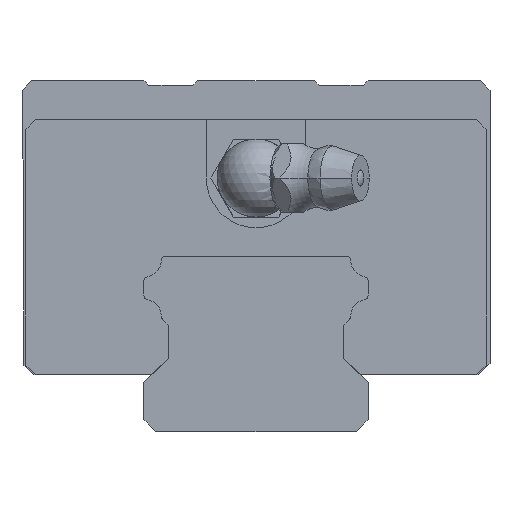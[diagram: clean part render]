
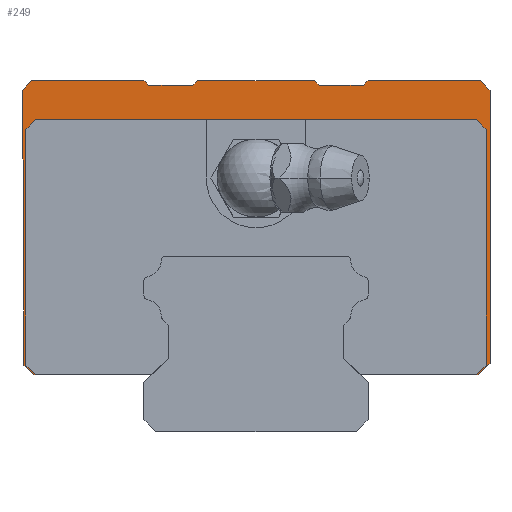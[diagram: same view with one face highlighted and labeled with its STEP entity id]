
A CAD part, front view. The second image highlights one B-rep face of the part: STEP entity #249.
In plain terms, the highlighted planar face has unit normal (0, -1, 0).
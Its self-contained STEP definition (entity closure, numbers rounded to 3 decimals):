
#249=ADVANCED_FACE('',(#556),#557,.F.);
#556=FACE_OUTER_BOUND('',#1016,.T.);
#557=PLANE('',#1017);
#1016=EDGE_LOOP('',(#2016,#2017,#2018,#2019,#2020,#2021,#2022,#2023,#2024,#2025,#2026,#2027,#2028,#2029,#2030,#2031,#2032,#2033,#2034,#2035,#2036,#2037,#2038,#2039,#2040,#2041));
#1017=AXIS2_PLACEMENT_3D('',#2042,#2043,#2044);
#2016=ORIENTED_EDGE('',*,*,#3509,.F.);
#2017=ORIENTED_EDGE('',*,*,#3510,.F.);
#2018=ORIENTED_EDGE('',*,*,#3511,.F.);
#2019=ORIENTED_EDGE('',*,*,#3512,.F.);
#2020=ORIENTED_EDGE('',*,*,#3513,.F.);
#2021=ORIENTED_EDGE('',*,*,#3514,.F.);
#2022=ORIENTED_EDGE('',*,*,#3515,.F.);
#2023=ORIENTED_EDGE('',*,*,#3516,.T.);
#2024=ORIENTED_EDGE('',*,*,#3517,.T.);
#2025=ORIENTED_EDGE('',*,*,#3518,.T.);
#2026=ORIENTED_EDGE('',*,*,#3519,.T.);
#2027=ORIENTED_EDGE('',*,*,#3520,.T.);
#2028=ORIENTED_EDGE('',*,*,#3521,.T.);
#2029=ORIENTED_EDGE('',*,*,#3522,.T.);
#2030=ORIENTED_EDGE('',*,*,#3523,.T.);
#2031=ORIENTED_EDGE('',*,*,#3524,.T.);
#2032=ORIENTED_EDGE('',*,*,#3525,.T.);
#2033=ORIENTED_EDGE('',*,*,#3526,.T.);
#2034=ORIENTED_EDGE('',*,*,#3527,.T.);
#2035=ORIENTED_EDGE('',*,*,#3528,.T.);
#2036=ORIENTED_EDGE('',*,*,#3529,.T.);
#2037=ORIENTED_EDGE('',*,*,#3530,.T.);
#2038=ORIENTED_EDGE('',*,*,#3531,.T.);
#2039=ORIENTED_EDGE('',*,*,#3532,.T.);
#2040=ORIENTED_EDGE('',*,*,#3533,.T.);
#2041=ORIENTED_EDGE('',*,*,#3534,.T.);
#2042=CARTESIAN_POINT('',(24.0,-8.5,36.0));
#2043=DIRECTION('',(0.,1.0,0.));
#2044=DIRECTION('',(1.0,0.,0.));
#3509=EDGE_CURVE('',#4561,#4562,#4563,.T.);
#3510=EDGE_CURVE('',#4564,#4561,#4565,.T.);
#3511=EDGE_CURVE('',#4566,#4564,#4567,.T.);
#3512=EDGE_CURVE('',#4568,#4566,#4569,.T.);
#3513=EDGE_CURVE('',#4570,#4568,#4571,.T.);
#3514=EDGE_CURVE('',#4572,#4570,#4573,.T.);
#3515=EDGE_CURVE('',#4574,#4572,#4575,.T.);
#3516=EDGE_CURVE('',#4574,#4576,#4577,.T.);
#3517=EDGE_CURVE('',#4576,#4578,#4579,.T.);
#3518=EDGE_CURVE('',#4578,#4580,#4581,.T.);
#3519=EDGE_CURVE('',#4580,#4582,#4583,.T.);
#3520=EDGE_CURVE('',#4582,#4584,#4585,.T.);
#3521=EDGE_CURVE('',#4584,#4586,#4587,.T.);
#3522=EDGE_CURVE('',#4586,#4588,#4589,.T.);
#3523=EDGE_CURVE('',#4588,#4590,#4591,.T.);
#3524=EDGE_CURVE('',#4590,#4592,#4593,.T.);
#3525=EDGE_CURVE('',#4592,#4594,#4595,.T.);
#3526=EDGE_CURVE('',#4594,#4596,#4597,.T.);
#3527=EDGE_CURVE('',#4596,#4598,#4599,.T.);
#3528=EDGE_CURVE('',#4598,#4600,#4601,.T.);
#3529=EDGE_CURVE('',#4600,#4602,#4603,.T.);
#3530=EDGE_CURVE('',#4602,#4604,#4605,.T.);
#3531=EDGE_CURVE('',#4604,#4606,#4607,.T.);
#3532=EDGE_CURVE('',#4606,#4608,#4609,.T.);
#3533=EDGE_CURVE('',#4608,#4610,#4611,.T.);
#3534=EDGE_CURVE('',#4610,#4562,#4612,.T.);
#4561=VERTEX_POINT('',#5991);
#4562=VERTEX_POINT('',#5992);
#4563=LINE('',#5993,#5994);
#4564=VERTEX_POINT('',#5995);
#4565=LINE('',#5996,#5997);
#4566=VERTEX_POINT('',#5998);
#4567=LINE('',#5999,#6000);
#4568=VERTEX_POINT('',#6001);
#4569=LINE('',#6002,#6003);
#4570=VERTEX_POINT('',#6004);
#4571=LINE('',#6005,#6006);
#4572=VERTEX_POINT('',#6007);
#4573=LINE('',#6008,#6009);
#4574=VERTEX_POINT('',#6010);
#4575=LINE('',#6011,#6012);
#4576=VERTEX_POINT('',#6013);
#4577=LINE('',#6014,#6015);
#4578=VERTEX_POINT('',#6016);
#4579=LINE('',#6017,#6018);
#4580=VERTEX_POINT('',#6019);
#4581=LINE('',#6020,#6021);
#4582=VERTEX_POINT('',#6022);
#4583=LINE('',#6023,#6024);
#4584=VERTEX_POINT('',#6025);
#4585=LINE('',#6026,#6027);
#4586=VERTEX_POINT('',#6028);
#4587=LINE('',#6029,#6030);
#4588=VERTEX_POINT('',#6031);
#4589=LINE('',#6032,#6033);
#4590=VERTEX_POINT('',#6034);
#4591=LINE('',#6035,#6036);
#4592=VERTEX_POINT('',#6037);
#4593=LINE('',#6038,#6039);
#4594=VERTEX_POINT('',#6040);
#4595=LINE('',#6041,#6042);
#4596=VERTEX_POINT('',#6043);
#4597=LINE('',#6044,#6045);
#4598=VERTEX_POINT('',#6046);
#4599=LINE('',#6047,#6048);
#4600=VERTEX_POINT('',#6049);
#4601=LINE('',#6050,#6051);
#4602=VERTEX_POINT('',#6052);
#4603=LINE('',#6053,#6054);
#4604=VERTEX_POINT('',#6055);
#4605=LINE('',#6056,#6057);
#4606=VERTEX_POINT('',#6058);
#4607=LINE('',#6059,#6060);
#4608=VERTEX_POINT('',#6061);
#4609=LINE('',#6062,#6063);
#4610=VERTEX_POINT('',#6064);
#4611=LINE('',#6065,#6066);
#4612=LINE('',#6067,#6068);
#5991=CARTESIAN_POINT('',(-23.6,-8.5,6.8));
#5992=CARTESIAN_POINT('',(-22.6,-8.5,5.8));
#5993=CARTESIAN_POINT('',(-23.6,-8.5,6.8));
#5994=VECTOR('',#7514,1000.0);
#5995=CARTESIAN_POINT('',(-23.6,-8.5,31.0));
#5996=CARTESIAN_POINT('',(-23.6,-8.5,31.0));
#5997=VECTOR('',#7515,1000.0);
#5998=CARTESIAN_POINT('',(-22.6,-8.5,32.0));
#5999=CARTESIAN_POINT('',(-22.6,-8.5,32.0));
#6000=VECTOR('',#7516,1000.0);
#6001=CARTESIAN_POINT('',(22.6,-8.5,32.0));
#6002=CARTESIAN_POINT('',(22.6,-8.5,32.0));
#6003=VECTOR('',#7517,1000.0);
#6004=CARTESIAN_POINT('',(23.6,-8.5,31.0));
#6005=CARTESIAN_POINT('',(23.6,-8.5,31.0));
#6006=VECTOR('',#7518,1000.0);
#6007=CARTESIAN_POINT('',(23.6,-8.5,6.8));
#6008=CARTESIAN_POINT('',(23.6,-8.5,6.8));
#6009=VECTOR('',#7519,1000.0);
#6010=CARTESIAN_POINT('',(22.6,-8.5,5.8));
#6011=CARTESIAN_POINT('',(22.6,-8.5,5.8));
#6012=VECTOR('',#7520,1000.0);
#6013=CARTESIAN_POINT('',(22.8,-8.5,5.8));
#6014=CARTESIAN_POINT('',(-22.8,-8.5,5.8));
#6015=VECTOR('',#7521,1000.0);
#6016=CARTESIAN_POINT('',(24.0,-8.5,7.0));
#6017=CARTESIAN_POINT('',(22.8,-8.5,5.8));
#6018=VECTOR('',#7522,1000.0);
#6019=CARTESIAN_POINT('',(24.0,-8.5,35.0));
#6020=CARTESIAN_POINT('',(24.0,-8.5,7.0));
#6021=VECTOR('',#7523,1000.0);
#6022=CARTESIAN_POINT('',(23.0,-8.5,36.0));
#6023=CARTESIAN_POINT('',(24.0,-8.5,35.0));
#6024=VECTOR('',#7524,1000.0);
#6025=CARTESIAN_POINT('',(11.5,-8.5,36.0));
#6026=CARTESIAN_POINT('',(23.0,-8.5,36.0));
#6027=VECTOR('',#7525,1000.0);
#6028=CARTESIAN_POINT('',(11.0,-8.5,35.5));
#6029=CARTESIAN_POINT('',(11.5,-8.5,36.0));
#6030=VECTOR('',#7526,1000.0);
#6031=CARTESIAN_POINT('',(6.5,-8.5,35.5));
#6032=CARTESIAN_POINT('',(11.0,-8.5,35.5));
#6033=VECTOR('',#7527,1000.0);
#6034=CARTESIAN_POINT('',(6.0,-8.5,36.0));
#6035=CARTESIAN_POINT('',(6.5,-8.5,35.5));
#6036=VECTOR('',#7528,1000.0);
#6037=CARTESIAN_POINT('',(-6.,-8.5,36.0));
#6038=CARTESIAN_POINT('',(6.0,-8.5,36.0));
#6039=VECTOR('',#7529,1000.0);
#6040=CARTESIAN_POINT('',(-6.5,-8.5,35.5));
#6041=CARTESIAN_POINT('',(-6.,-8.5,36.0));
#6042=VECTOR('',#7530,1000.0);
#6043=CARTESIAN_POINT('',(-11.0,-8.5,35.5));
#6044=CARTESIAN_POINT('',(-6.5,-8.5,35.5));
#6045=VECTOR('',#7531,1000.0);
#6046=CARTESIAN_POINT('',(-11.5,-8.5,36.0));
#6047=CARTESIAN_POINT('',(-11.0,-8.5,35.5));
#6048=VECTOR('',#7532,1000.0);
#6049=CARTESIAN_POINT('',(-23.0,-8.5,36.0));
#6050=CARTESIAN_POINT('',(-11.5,-8.5,36.0));
#6051=VECTOR('',#7533,1000.0);
#6052=CARTESIAN_POINT('',(-24.0,-8.5,35.0));
#6053=CARTESIAN_POINT('',(-23.0,-8.5,36.0));
#6054=VECTOR('',#7534,1000.0);
#6055=CARTESIAN_POINT('',(-24.0,-8.5,28.0));
#6056=CARTESIAN_POINT('',(-24.0,-8.5,35.0));
#6057=VECTOR('',#7535,1000.0);
#6058=CARTESIAN_POINT('',(-23.8,-8.5,27.8));
#6059=CARTESIAN_POINT('',(-24.0,-8.5,28.0));
#6060=VECTOR('',#7536,1000.0);
#6061=CARTESIAN_POINT('',(-23.8,-8.5,6.8));
#6062=CARTESIAN_POINT('',(-23.8,-8.5,27.8));
#6063=VECTOR('',#7537,1000.0);
#6064=CARTESIAN_POINT('',(-22.8,-8.5,5.8));
#6065=CARTESIAN_POINT('',(-23.8,-8.5,6.8));
#6066=VECTOR('',#7538,1000.0);
#6067=CARTESIAN_POINT('',(-22.8,-8.5,5.8));
#6068=VECTOR('',#7539,1000.0);
#7514=DIRECTION('',(0.707,0.0,-0.707));
#7515=DIRECTION('',(0.0,0.0,-1.0));
#7516=DIRECTION('',(-0.707,0.0,-0.707));
#7517=DIRECTION('',(-1.0,0.0,0.0));
#7518=DIRECTION('',(-0.707,0.0,0.707));
#7519=DIRECTION('',(0.0,0.0,1.0));
#7520=DIRECTION('',(0.707,0.0,0.707));
#7521=DIRECTION('',(1.0,0.,0.));
#7522=DIRECTION('',(0.707,0.,0.707));
#7523=DIRECTION('',(0.,0.,1.0));
#7524=DIRECTION('',(-0.707,0.,0.707));
#7525=DIRECTION('',(-1.0,0.,0.));
#7526=DIRECTION('',(-0.707,0.,-0.707));
#7527=DIRECTION('',(-1.0,0.,0.));
#7528=DIRECTION('',(-0.707,0.,0.707));
#7529=DIRECTION('',(-1.0,0.,0.));
#7530=DIRECTION('',(-0.707,0.,-0.707));
#7531=DIRECTION('',(-1.0,0.,0.));
#7532=DIRECTION('',(-0.707,0.,0.707));
#7533=DIRECTION('',(-1.0,0.,0.));
#7534=DIRECTION('',(-0.707,0.,-0.707));
#7535=DIRECTION('',(0.,0.,-1.0));
#7536=DIRECTION('',(0.707,0.,-0.707));
#7537=DIRECTION('',(0.,0.,-1.0));
#7538=DIRECTION('',(0.707,0.,-0.707));
#7539=DIRECTION('',(1.0,0.,0.));
